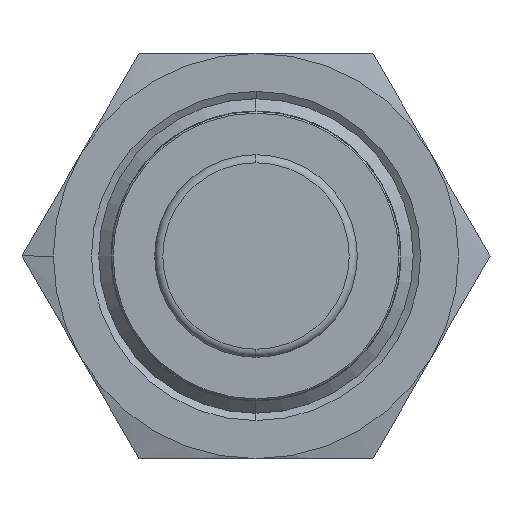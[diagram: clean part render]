
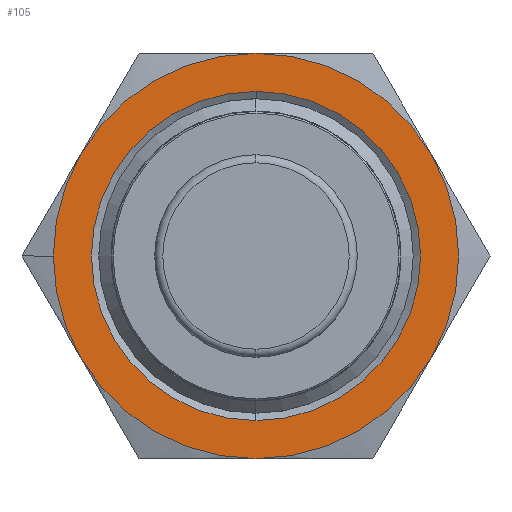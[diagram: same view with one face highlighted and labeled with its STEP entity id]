
A CAD part, left-side view. The second image highlights one B-rep face of the part: STEP entity #105.
In plain terms, the highlighted planar face has unit normal (-1, 0, 0).
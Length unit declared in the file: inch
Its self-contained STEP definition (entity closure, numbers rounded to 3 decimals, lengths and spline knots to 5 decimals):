
#105 = ADVANCED_FACE ( 'NONE', ( #447, #450 ), #4358, .F. ) ;
#447 = FACE_OUTER_BOUND ( 'NONE', #545, .T. ) ;
#450 = FACE_BOUND ( 'NONE', #553, .T. ) ;
#545 = EDGE_LOOP ( 'NONE', ( #3546, #3575, #3545, #3570, #3544, #3567, #3543 ) ) ;
#553 = EDGE_LOOP ( 'NONE', ( #3566, #3542 ) ) ;
#1162 = CIRCLE ( 'NONE', #1698, 0.625 ) ;
#1164 = CIRCLE ( 'NONE', #1705, 0.625 ) ;
#1180 = CIRCLE ( 'NONE', #1712, 0.625 ) ;
#1182 = CIRCLE ( 'NONE', #1714, 0.625 ) ;
#1184 = CIRCLE ( 'NONE', #1716, 0.625 ) ;
#1190 = CIRCLE ( 'NONE', #1708, 0.5075 ) ;
#1197 = CIRCLE ( 'NONE', #1717, 0.5075 ) ;
#1199 = CIRCLE ( 'NONE', #1715, 0.625 ) ;
#1202 = CIRCLE ( 'NONE', #1722, 0.625 ) ;
#1698 = AXIS2_PLACEMENT_3D ( 'NONE', #2776, #2759, #2777 ) ;
#1705 = AXIS2_PLACEMENT_3D ( 'NONE', #2778, #2779, #2780 ) ;
#1708 = AXIS2_PLACEMENT_3D ( 'NONE', #2913, #2921, #2922 ) ;
#1712 = AXIS2_PLACEMENT_3D ( 'NONE', #2875, #2887, #2888 ) ;
#1714 = AXIS2_PLACEMENT_3D ( 'NONE', #2889, #2896, #2897 ) ;
#1715 = AXIS2_PLACEMENT_3D ( 'NONE', #2931, #2940, #2941 ) ;
#1716 = AXIS2_PLACEMENT_3D ( 'NONE', #2898, #2905, #2906 ) ;
#1717 = AXIS2_PLACEMENT_3D ( 'NONE', #2923, #2937, #2938 ) ;
#1722 = AXIS2_PLACEMENT_3D ( 'NONE', #2967, #2969, #2970 ) ;
#2759 = DIRECTION ( 'NONE',  ( 1., 0., 0. ) ) ;
#2776 = CARTESIAN_POINT ( 'NONE',  ( -0.945, 0., 0. ) ) ;
#2777 = DIRECTION ( 'NONE',  ( 0., 1., 0. ) ) ;
#2778 = CARTESIAN_POINT ( 'NONE',  ( -0.945, 0., 0. ) ) ;
#2779 = DIRECTION ( 'NONE',  ( 1., 0., 0. ) ) ;
#2780 = DIRECTION ( 'NONE',  ( 0., 1., 0. ) ) ;
#2875 = CARTESIAN_POINT ( 'NONE',  ( -0.945, 0., 0. ) ) ;
#2887 = DIRECTION ( 'NONE',  ( 1., 0., 0. ) ) ;
#2888 = DIRECTION ( 'NONE',  ( 0., 1., 0. ) ) ;
#2889 = CARTESIAN_POINT ( 'NONE',  ( -0.945, 0., 0. ) ) ;
#2896 = DIRECTION ( 'NONE',  ( 1., 0., 0. ) ) ;
#2897 = DIRECTION ( 'NONE',  ( 0., 1., 0. ) ) ;
#2898 = CARTESIAN_POINT ( 'NONE',  ( -0.945, 0., 0. ) ) ;
#2905 = DIRECTION ( 'NONE',  ( 1., 0., 0. ) ) ;
#2906 = DIRECTION ( 'NONE',  ( 0., 1., 0. ) ) ;
#2913 = CARTESIAN_POINT ( 'NONE',  ( -0.945, 0., 0. ) ) ;
#2921 = DIRECTION ( 'NONE',  ( -1., 0., 0. ) ) ;
#2922 = DIRECTION ( 'NONE',  ( 0., 0., 1. ) ) ;
#2923 = CARTESIAN_POINT ( 'NONE',  ( -0.945, 0., 0. ) ) ;
#2931 = CARTESIAN_POINT ( 'NONE',  ( -0.945, 0., 0. ) ) ;
#2937 = DIRECTION ( 'NONE',  ( -1., 0., 0. ) ) ;
#2938 = DIRECTION ( 'NONE',  ( 0., 0., 1. ) ) ;
#2940 = DIRECTION ( 'NONE',  ( 1., 0., 0. ) ) ;
#2941 = DIRECTION ( 'NONE',  ( 0., 1., 0. ) ) ;
#2967 = CARTESIAN_POINT ( 'NONE',  ( -0.945, 0., 0. ) ) ;
#2969 = DIRECTION ( 'NONE',  ( 1., 0., 0. ) ) ;
#2970 = DIRECTION ( 'NONE',  ( 0., 1., 0. ) ) ;
#3333 = CARTESIAN_POINT ( 'NONE',  ( -0.945, 0.54127, -0.3125 ) ) ;
#3334 = CARTESIAN_POINT ( 'NONE',  ( -0.945, 0.625, 0. ) ) ;
#3338 = CARTESIAN_POINT ( 'NONE',  ( -0.945, 0., -0.5075 ) ) ;
#3339 = CARTESIAN_POINT ( 'NONE',  ( -0.945, 0., 0.5075 ) ) ;
#3340 = CARTESIAN_POINT ( 'NONE',  ( -0.945, 0.54127, 0.3125 ) ) ;
#3341 = CARTESIAN_POINT ( 'NONE',  ( -0.945, 0., 0.625 ) ) ;
#3342 = CARTESIAN_POINT ( 'NONE',  ( -0.945, -0.54127, 0.3125 ) ) ;
#3344 = CARTESIAN_POINT ( 'NONE',  ( -0.945, -0.54127, -0.3125 ) ) ;
#3346 = CARTESIAN_POINT ( 'NONE',  ( -0.945, 0., -0.625 ) ) ;
#3542 = ORIENTED_EDGE ( 'NONE', *, *, #4091, .F. ) ;
#3543 = ORIENTED_EDGE ( 'NONE', *, *, #4085, .F. ) ;
#3544 = ORIENTED_EDGE ( 'NONE', *, *, #3986, .F. ) ;
#3545 = ORIENTED_EDGE ( 'NONE', *, *, #3985, .F. ) ;
#3546 = ORIENTED_EDGE ( 'NONE', *, *, #4074, .F. ) ;
#3566 = ORIENTED_EDGE ( 'NONE', *, *, #4096, .F. ) ;
#3567 = ORIENTED_EDGE ( 'NONE', *, *, #4097, .F. ) ;
#3570 = ORIENTED_EDGE ( 'NONE', *, *, #4103, .F. ) ;
#3575 = ORIENTED_EDGE ( 'NONE', *, *, #4076, .F. ) ;
#3985 = EDGE_CURVE ( 'NONE', #4332, #4334, #1162, .T. ) ;
#3986 = EDGE_CURVE ( 'NONE', #4330, #4331, #1164, .T. ) ;
#3997 = AXIS2_PLACEMENT_3D ( 'NONE', #4357, #4360, #4361 ) ;
#4074 = EDGE_CURVE ( 'NONE', #4336, #4323, #1180, .T. ) ;
#4076 = EDGE_CURVE ( 'NONE', #4334, #4336, #1182, .T. ) ;
#4085 = EDGE_CURVE ( 'NONE', #4323, #4324, #1184, .T. ) ;
#4091 = EDGE_CURVE ( 'NONE', #4328, #4329, #1190, .T. ) ;
#4096 = EDGE_CURVE ( 'NONE', #4329, #4328, #1197, .T. ) ;
#4097 = EDGE_CURVE ( 'NONE', #4324, #4330, #1199, .T. ) ;
#4103 = EDGE_CURVE ( 'NONE', #4331, #4332, #1202, .T. ) ;
#4323 = VERTEX_POINT ( 'NONE', #3333 ) ;
#4324 = VERTEX_POINT ( 'NONE', #3334 ) ;
#4328 = VERTEX_POINT ( 'NONE', #3338 ) ;
#4329 = VERTEX_POINT ( 'NONE', #3339 ) ;
#4330 = VERTEX_POINT ( 'NONE', #3340 ) ;
#4331 = VERTEX_POINT ( 'NONE', #3341 ) ;
#4332 = VERTEX_POINT ( 'NONE', #3342 ) ;
#4334 = VERTEX_POINT ( 'NONE', #3344 ) ;
#4336 = VERTEX_POINT ( 'NONE', #3346 ) ;
#4357 = CARTESIAN_POINT ( 'NONE',  ( -0.945, -0.36084, 0.625 ) ) ;
#4358 = PLANE ( 'NONE',  #3997 ) ;
#4360 = DIRECTION ( 'NONE',  ( 1., 0., 0. ) ) ;
#4361 = DIRECTION ( 'NONE',  ( 0., 0., -1. ) ) ;
